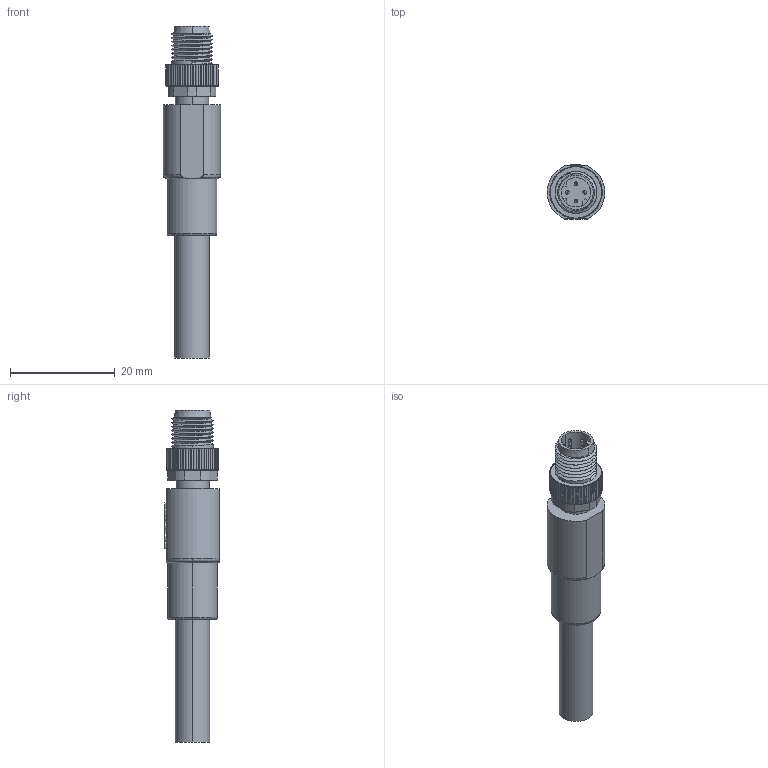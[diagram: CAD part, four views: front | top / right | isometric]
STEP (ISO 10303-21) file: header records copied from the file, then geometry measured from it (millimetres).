
FILE_DESCRIPTION((''),'2;1');
FILE_NAME('M8-4MS_P-L','2025-05-20T',('lyj'),(''),'PRO/ENGINEER BY PARAMETRIC TECHNOLOGY CORPORATION, 2009360','PRO/ENGINEER BY PARAMETRIC TECHNOLOGY CORPORATION, 2009360','');
FILE_SCHEMA(('CONFIG_CONTROL_DESIGN'));
Length unit declared in the file: millimetre
Products named in the file (1): M8-4MS_P-L
Bounding box: 11 x 10.3 x 63.3 mm (x, y, z)
Volume: 3493.2 mm3; surface area: 2719.3 mm2
Topology: 1 solids, 1 shells, 448 faces, 1096 edges, 663 vertices
Faces by surface type: cylinder 183, cone 130, plane 97, extrusion 16, torus 10, sphere 8, bspline 4
Entity records: 16378 total; most frequent: CARTESIAN_POINT 6251, ORIENTED_EDGE 2176, DIRECTION 2002, EDGE_CURVE 1088, AXIS2_PLACEMENT_3D 788, VERTEX_POINT 663, EDGE_LOOP 469, FACE_OUTER_BOUND 448
